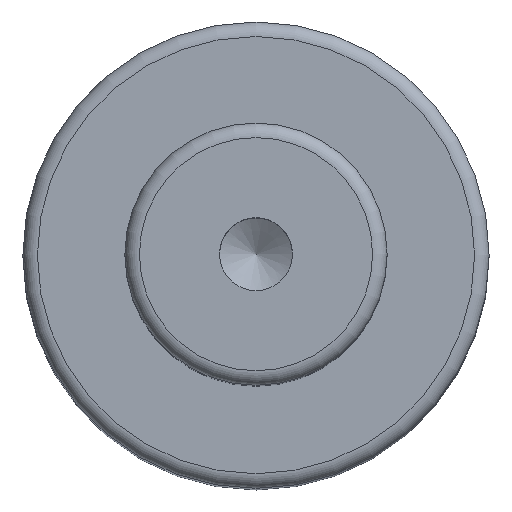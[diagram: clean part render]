
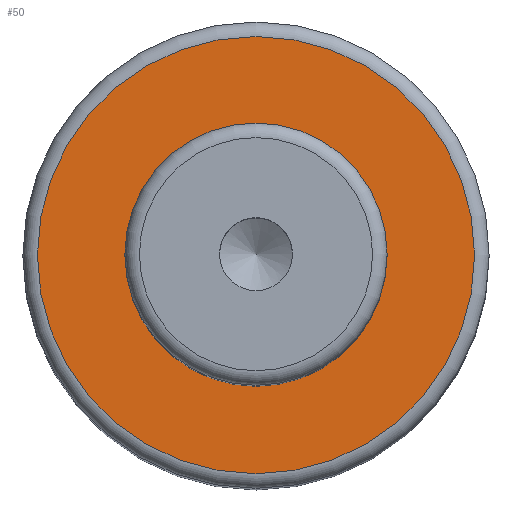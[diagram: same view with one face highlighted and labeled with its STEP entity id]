
A CAD part, top view. The second image highlights one B-rep face of the part: STEP entity #50.
In plain terms, the highlighted planar face has unit normal (0, 0, 1).
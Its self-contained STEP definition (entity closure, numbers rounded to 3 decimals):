
#40=PLANE('',#179);
#50=ADVANCED_FACE('',(#72,#73),#40,.F.);
#72=FACE_BOUND('',#96,.T.);
#73=FACE_BOUND('',#97,.T.);
#96=EDGE_LOOP('',(#118));
#97=EDGE_LOOP('',(#119));
#118=ORIENTED_EDGE('',*,*,#149,.F.);
#119=ORIENTED_EDGE('',*,*,#148,.T.);
#135=VERTEX_POINT('',#256);
#136=VERTEX_POINT('',#259);
#148=EDGE_CURVE('',#135,#135,#159,.T.);
#149=EDGE_CURVE('',#136,#136,#160,.T.);
#159=CIRCLE('',#176,9.);
#160=CIRCLE('',#178,15.);
#176=AXIS2_PLACEMENT_3D('',#255,#213,#214);
#178=AXIS2_PLACEMENT_3D('',#258,#217,#218);
#179=AXIS2_PLACEMENT_3D('',#260,#219,#220);
#213=DIRECTION('',(0.,0.,-1.));
#214=DIRECTION('',(-1.,0.,0.));
#217=DIRECTION('',(0.,0.,-1.));
#218=DIRECTION('',(-1.,0.,0.));
#219=DIRECTION('',(0.,0.,-1.));
#220=DIRECTION('',(-1.,0.,0.));
#255=CARTESIAN_POINT('',(0.,0.,67.));
#256=CARTESIAN_POINT('',(-9.,0.,67.));
#258=CARTESIAN_POINT('',(0.,0.,67.));
#259=CARTESIAN_POINT('',(-15.,0.,67.));
#260=CARTESIAN_POINT('',(9.,0.,67.));
